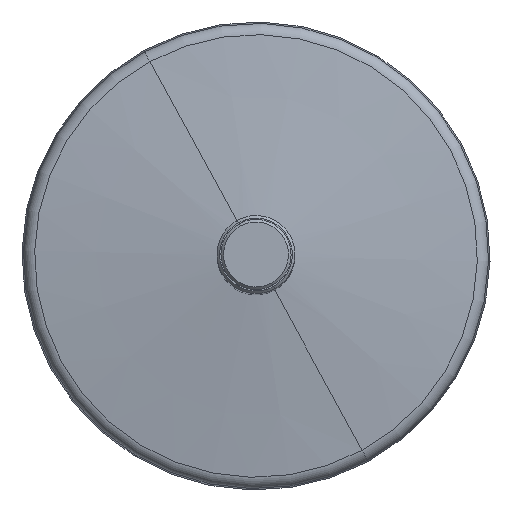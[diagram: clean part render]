
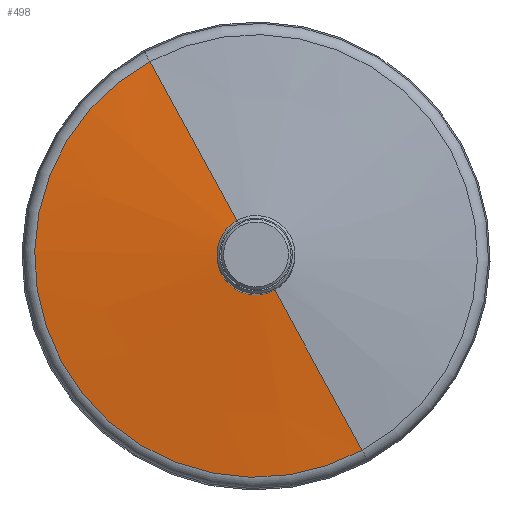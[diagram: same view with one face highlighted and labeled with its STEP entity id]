
A CAD part, top view. The second image highlights one B-rep face of the part: STEP entity #498.
In plain terms, the highlighted conical face has half-angle 82.947 degrees and reference radius 14.877 mm.
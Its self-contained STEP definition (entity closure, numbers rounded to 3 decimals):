
#434=CARTESIAN_POINT('Vertex',(40.806,-74.695,15.962)) ;
#437=CARTESIAN_POINT('Axis2P3D Location',(0.,0.,15.962)) ;
#441=CARTESIAN_POINT('Vertex',(-40.806,74.695,15.962)) ;
#468=CARTESIAN_POINT('Axis2P3D Location',(0.,0.,24.653)) ;
#473=CARTESIAN_POINT('Line Origine',(23.969,-43.875,20.307)) ;
#477=CARTESIAN_POINT('Vertex',(7.133,-13.056,24.653)) ;
#480=CARTESIAN_POINT('Axis2P3D Location',(0.,0.,24.653)) ;
#484=CARTESIAN_POINT('Vertex',(-7.133,13.056,24.653)) ;
#487=CARTESIAN_POINT('Line Origine',(-23.969,43.875,20.307)) ;
#438=DIRECTION('Axis2P3D Direction',(0.,0.,1.)) ;
#469=DIRECTION('Axis2P3D Direction',(-0.,-0.,-1.)) ;
#470=DIRECTION('Axis2P3D XDirection',(-0.479,0.878,0.)) ;
#474=DIRECTION('Vector Direction',(0.476,-0.871,-0.123)) ;
#481=DIRECTION('Axis2P3D Direction',(0.,0.,-1.)) ;
#488=DIRECTION('Vector Direction',(-0.476,0.871,-0.123)) ;
#439=AXIS2_PLACEMENT_3D('Circle Axis2P3D',#437,#438,$) ;
#471=AXIS2_PLACEMENT_3D('Cone Axis2P3D',#468,#469,#470) ;
#482=AXIS2_PLACEMENT_3D('Circle Axis2P3D',#480,#481,$) ;
#493=ORIENTED_EDGE('',*,*,#479,.T.) ;
#494=ORIENTED_EDGE('',*,*,#486,.F.) ;
#495=ORIENTED_EDGE('',*,*,#491,.F.) ;
#496=ORIENTED_EDGE('',*,*,#443,.T.) ;
#475=VECTOR('Line Direction',#474,1.) ;
#489=VECTOR('Line Direction',#488,1.) ;
#498=ADVANCED_FACE('PartBody',(#497),#472,.T.) ;
#440=CIRCLE('generated circle',#439,85.114) ;
#483=CIRCLE('generated circle',#482,14.877) ;
#472=CONICAL_SURFACE('Cone',#471,14.877,1.448) ;
#443=EDGE_CURVE('',#442,#435,#440,.T.) ;
#479=EDGE_CURVE('',#435,#478,#476,.F.) ;
#486=EDGE_CURVE('',#485,#478,#483,.F.) ;
#491=EDGE_CURVE('',#442,#485,#490,.F.) ;
#492=EDGE_LOOP('',(#493,#494,#495,#496)) ;
#497=FACE_OUTER_BOUND('',#492,.T.) ;
#476=LINE('Line',#473,#475) ;
#490=LINE('Line',#487,#489) ;
#435=VERTEX_POINT('',#434) ;
#442=VERTEX_POINT('',#441) ;
#478=VERTEX_POINT('',#477) ;
#485=VERTEX_POINT('',#484) ;
